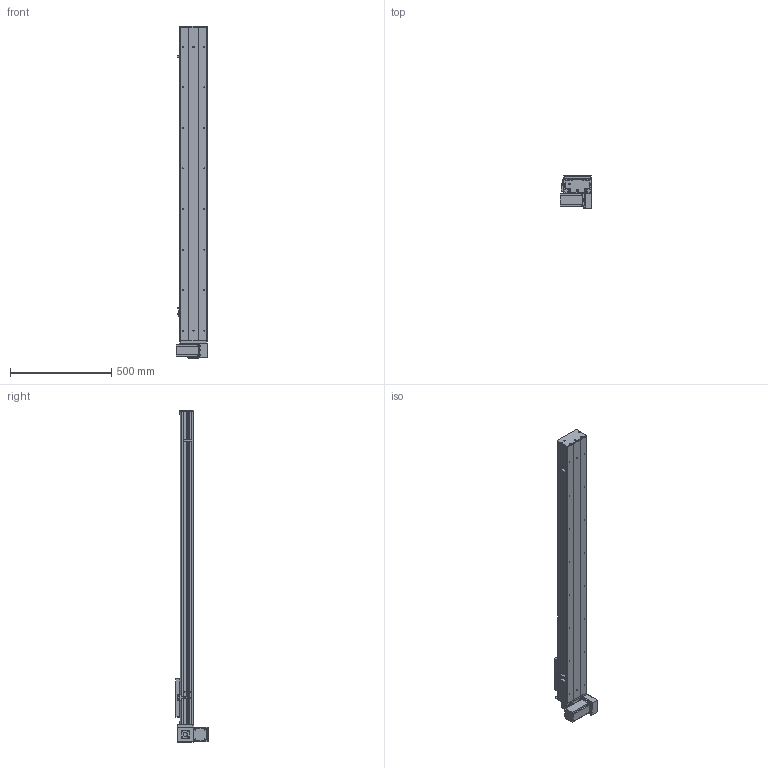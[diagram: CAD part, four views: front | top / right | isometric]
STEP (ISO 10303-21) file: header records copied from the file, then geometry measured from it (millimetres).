
FILE_DESCRIPTION (( 'STEP AP203' ), '1' );
FILE_NAME ('Y135CB-D90-S1250-BM-P400W.STEP', '2020-02-19T01:24:40', ( '微软用户' ), ( '微软中国' ), 'SwSTEP 2.0', 'SolidWorks 2017', '' );
FILE_SCHEMA (( 'CONFIG_CONTROL_DESIGN' ));
Length unit declared in the file: millimetre
Products named in the file (18): Y135CB-D90-S1250-BM-P400W; 135CB--詩湍-CE; 135CB---遴掛极.-; Y100-135俋离換覜ん--; 35CB---喘謫眊楊擘啣; Y135C-陔俋离換覜結え-; 0B-埴倛裔啣; 5C--俋欶; 0B-源倛裔啣; C-雄赽釱--; 0B-萇儂楊擘啣; Y10B--々湍喘謫眊--666; san松下电机400不带刹车----; 00B-俋欶BM--; 5CB --掛极耜裔啣-; Y10B-耜蚾蟀諉啣----; C-詩湍揤踡え-陔; Y135CB-耜裔
Assembly tree (21 placements, depth 2):
  Y135CB-D90-S1250-BM-P400W
    Y135CB-耜裔
    135CB---遴掛极.-
    35CB---喘謫眊楊擘啣
    0B-埴倛裔啣
    0B-源倛裔啣
    0B-萇儂楊擘啣
    san松下电机400不带刹车----
    5CB --掛极耜裔啣-  x2
    C-詩湍揤踡え-陔  x2
    135CB--詩湍-CE
    Y100-135俋离換覜ん--  x3
    Y135C-陔俋离換覜結え-
    5C--俋欶
    C-雄赽釱--
    Y10B--々湍喘謫眊--666
    00B-俋欶BM--
    Y10B-耜蚾蟀諉啣----
Bounding box: 157 x 163.3 x 1638 mm (x, y, z)
Volume: 5035737.4 mm3; surface area: 1976824.6 mm2
Topology: 21 solids, 21 shells, 949 faces, 2545 edges, 1686 vertices
Faces by surface type: cylinder 477, plane 456, cone 16
Entity records: 29551 total; most frequent: DIRECTION 4909, CARTESIAN_POINT 4856, ORIENTED_EDGE 4566, EDGE_CURVE 2283, AXIS2_PLACEMENT_3D 1791, VERTEX_POINT 1514, LINE 1327, VECTOR 1327
